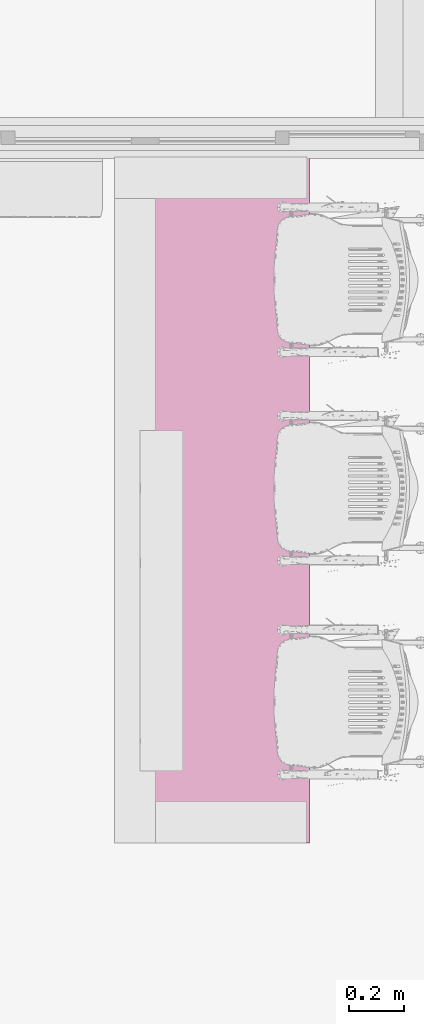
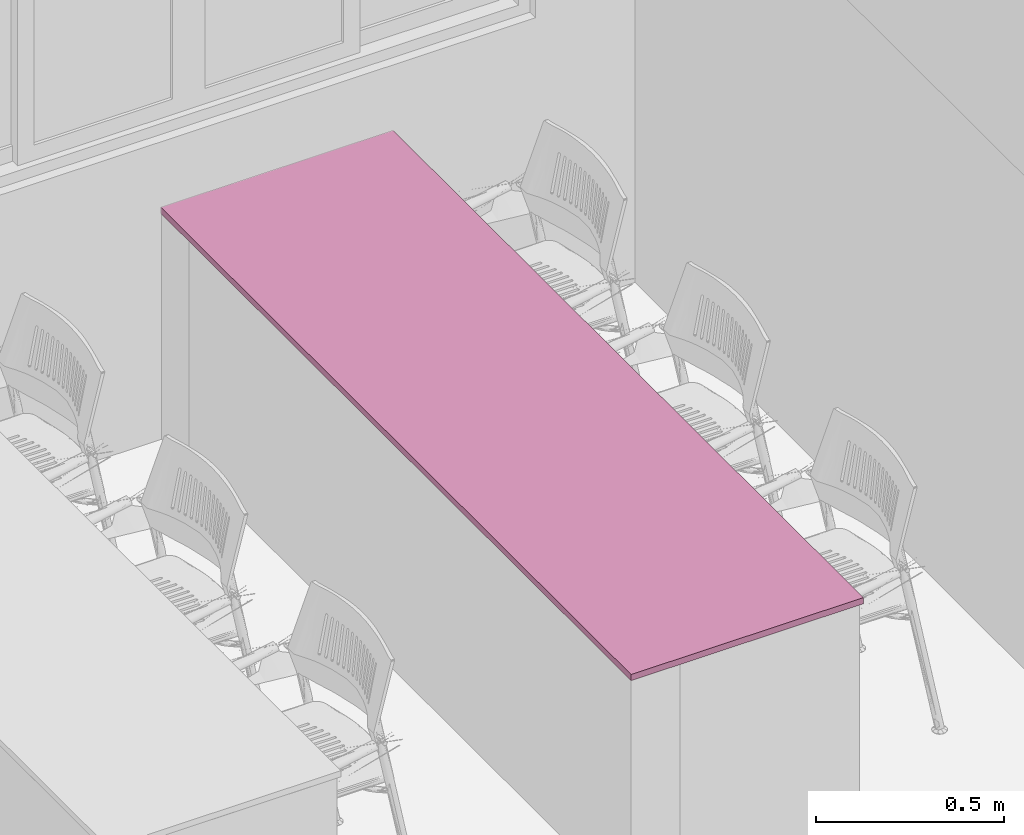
# One storey, part 152 of 155: 1 furnishing.
"""IFC2X3 building model written with IfcOpenShell, lengths in metres."""

from ifc_helpers import new_model, entity, si_unit, converted_unit, derived_unit, direction, frame, frame_2d, origin, place, context, subcontext, project, spatial, rectangle, extrude, source, transform, mapped, type_object, type_shapes, element, save


model = new_model("IFC2X3")

# Units and contexts
model_context = context("Model", 3, precision=1e-05, world=origin(), true_north=direction((6.12303176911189e-17, 1.0)))
body_context = subcontext(model_context, "Body", "Model", "MODEL_VIEW")
ifc_project = project(units=[si_unit("LENGTHUNIT", "METRE"), si_unit("AREAUNIT", "SQUARE_METRE"), si_unit("VOLUMEUNIT", "CUBIC_METRE"), converted_unit("PLANEANGLEUNIT", "DEGREE", entity("IfcRatioMeasure", 0.0174532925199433), si_unit("PLANEANGLEUNIT", "RADIAN"), dimensions=[0, 0, 0, 0, 0, 0, 0]), si_unit("MASSUNIT", "GRAM", prefix="KILO"), derived_unit("MASSDENSITYUNIT", [(si_unit("MASSUNIT", "GRAM", prefix="KILO"), 1), (si_unit("LENGTHUNIT", "METRE"), -3)]), si_unit("TIMEUNIT", "SECOND"), si_unit("FREQUENCYUNIT", "HERTZ"), si_unit("THERMODYNAMICTEMPERATUREUNIT", "DEGREE_CELSIUS"), derived_unit("THERMALTRANSMITTANCEUNIT", [(si_unit("MASSUNIT", "GRAM", prefix="KILO"), 1), (si_unit("THERMODYNAMICTEMPERATUREUNIT", "KELVIN"), -1), (si_unit("TIMEUNIT", "SECOND"), -3)]), derived_unit("VOLUMETRICFLOWRATEUNIT", [(si_unit("LENGTHUNIT", "METRE"), 3), (si_unit("TIMEUNIT", "SECOND"), -1)]), si_unit("ELECTRICCURRENTUNIT", "AMPERE"), si_unit("ELECTRICVOLTAGEUNIT", "VOLT"), si_unit("POWERUNIT", "WATT"), si_unit("FORCEUNIT", "NEWTON", prefix="KILO"), si_unit("ILLUMINANCEUNIT", "LUX"), si_unit("LUMINOUSFLUXUNIT", "LUMEN"), si_unit("LUMINOUSINTENSITYUNIT", "CANDELA"), derived_unit("USERDEFINED", [(si_unit("MASSUNIT", "GRAM", prefix="KILO"), -1), (si_unit("LENGTHUNIT", "METRE"), -2), (si_unit("TIMEUNIT", "SECOND"), 3), (si_unit("LUMINOUSFLUXUNIT", "LUMEN"), 1)]), derived_unit("LINEARVELOCITYUNIT", [(si_unit("LENGTHUNIT", "METRE"), 1), (si_unit("TIMEUNIT", "SECOND"), -1)]), si_unit("PRESSUREUNIT", "PASCAL"), derived_unit("USERDEFINED", [(si_unit("LENGTHUNIT", "METRE"), -2), (si_unit("MASSUNIT", "GRAM", prefix="KILO"), 1), (si_unit("TIMEUNIT", "SECOND"), -2)])], contexts=[model_context])

# Site, building, storey, space
site_placement = place(None, frame((26.9889013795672, -17.5624287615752, 0.0)))
site = spatial("IfcSite", under=ifc_project, at=site_placement, Name="Default", CompositionType="ELEMENT")
building_placement = place(site_placement, origin())
building = spatial("IfcBuilding", under=site, at=building_placement, Name="C. C. L. Monsenhor Antônio Sampaio", CompositionType="ELEMENT")
storey_placement = place(building_placement, frame((0.0, 0.0, 1.19999999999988)))
storey = spatial("IfcBuildingStorey", under=building, at=storey_placement, Name="Nível 1.2", CompositionType="ELEMENT", Elevation=1.19999999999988)
space_placement = place(storey_placement, origin())
space = spatial("IfcSpace", under=storey, at=space_placement, Name="89", CompositionType="ELEMENT", InteriorOrExteriorSpace="INTERNAL")

# Furnishing
furniture_type = type_object("IfcFurnitureType", Name="Bancada")
shared_shape = source(origin(), body_context, "Body", "SweptSolid", [
    extrude(rectangle(XDim=2.5, YDim=0.712499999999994, at=frame_2d((-1.11022302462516e-15, 0.0), x_axis=(1.0, 0.0))), frame((10.4831977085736, -11.5480663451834, 1.92999999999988), z_axis=(0.0, 0.0, 1.0), x_axis=(0.0, -1.0, 0.0)), (0.0, 0.0, 1.0), 0.0200000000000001),
])
type_shapes(furniture_type, [shared_shape])
furnishing_placement = place(space_placement, frame((0.0, 0.0, -1.19999999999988)))
element("IfcFurnishingElement", 1, at=furnishing_placement, inside=space, type_object=furniture_type, Name="Bancada_balcao:Bancada", ObjectType="Bancada", context=body_context, shape_type="MappedRepresentation", body=[
    mapped(shared_shape, transform((0.0, 0.0, 0.0), scale=1.0)),
])

save(model, "model.ifc")
